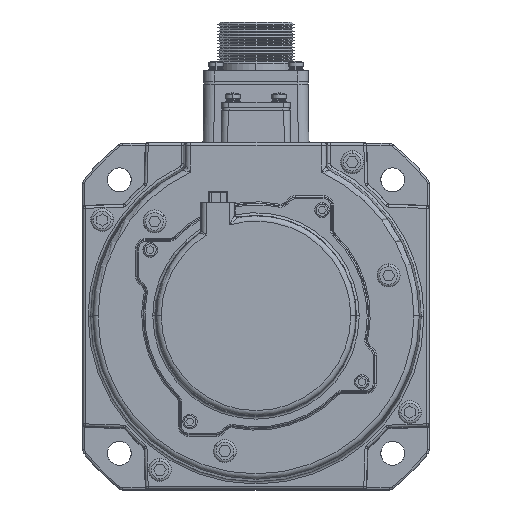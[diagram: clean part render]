
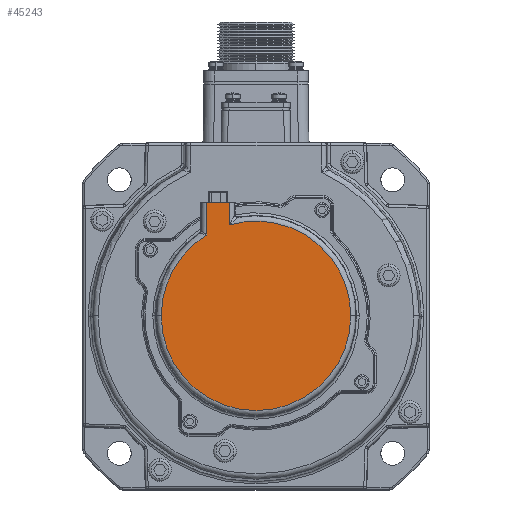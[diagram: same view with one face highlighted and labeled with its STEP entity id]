
A CAD part, top view. The second image highlights one B-rep face of the part: STEP entity #45243.
In plain terms, the highlighted planar face has unit normal (0, 0, 1).
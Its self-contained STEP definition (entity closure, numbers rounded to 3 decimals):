
#1659 = VECTOR ( 'NONE', #78107, 1000. ) ;
#2811 = VERTEX_POINT ( 'NONE', #134739 ) ;
#3097 = ORIENTED_EDGE ( 'NONE', *, *, #72445, .T. ) ;
#5297 = VECTOR ( 'NONE', #97179, 1000. ) ;
#6064 = CARTESIAN_POINT ( 'NONE',  ( -18.844, -13.773, -18.537 ) ) ;
#6460 = DIRECTION ( 'NONE',  ( 0., 0., 1. ) ) ;
#6725 = DIRECTION ( 'NONE',  ( 0., 0., 1. ) ) ;
#8556 = DIRECTION ( 'NONE',  ( 0., 0., 1. ) ) ;
#9221 = DIRECTION ( 'NONE',  ( 0., -1., 0. ) ) ;
#12564 = CIRCLE ( 'NONE', #114161, 35.528 ) ;
#12755 = ORIENTED_EDGE ( 'NONE', *, *, #87980, .F. ) ;
#22048 = LINE ( 'NONE', #72444, #130663 ) ;
#26084 = AXIS2_PLACEMENT_3D ( 'NONE', #104521, #41218, #115110 ) ;
#30648 = PLANE ( 'NONE',  #26084 ) ;
#33916 = CARTESIAN_POINT ( 'NONE',  ( -16.872, -13.773, -18.537 ) ) ;
#34429 = ORIENTED_EDGE ( 'NONE', *, *, #105026, .T. ) ;
#41218 = DIRECTION ( 'NONE',  ( 0., 0., 1. ) ) ;
#43096 = FACE_OUTER_BOUND ( 'NONE', #131137, .T. ) ;
#45243 = ADVANCED_FACE ( 'NONE', ( #43096 ), #30648, .T. ) ;
#46178 = CARTESIAN_POINT ( 'NONE',  ( -18.844, -13.773, -18.537 ) ) ;
#57749 = LINE ( 'NONE', #46178, #1659 ) ;
#60607 = EDGE_CURVE ( 'NONE', #2811, #120081, #108776, .T. ) ;
#60647 = ORIENTED_EDGE ( 'NONE', *, *, #122109, .T. ) ;
#60979 = VERTEX_POINT ( 'NONE', #118032 ) ;
#62399 = ORIENTED_EDGE ( 'NONE', *, *, #60607, .T. ) ;
#64495 = AXIS2_PLACEMENT_3D ( 'NONE', #69683, #6460, #80319 ) ;
#69683 = CARTESIAN_POINT ( 'NONE',  ( -8.872, -56.273, -18.537 ) ) ;
#69946 = CARTESIAN_POINT ( 'NONE',  ( -8.872, -56.273, -18.537 ) ) ;
#71795 = CARTESIAN_POINT ( 'NONE',  ( -8.872, -56.273, -18.537 ) ) ;
#72444 = CARTESIAN_POINT ( 'NONE',  ( -27.4, -24.873, -18.537 ) ) ;
#72445 = EDGE_CURVE ( 'NONE', #103716, #86991, #12564, .T. ) ;
#72688 = CARTESIAN_POINT ( 'NONE',  ( 26.656, -56.273, -18.537 ) ) ;
#78107 = DIRECTION ( 'NONE',  ( 0., 1., 0. ) ) ;
#79310 = CARTESIAN_POINT ( 'NONE',  ( -44.4, -56.273, -18.537 ) ) ;
#80319 = DIRECTION ( 'NONE',  ( 1., 0., 0. ) ) ;
#80586 = DIRECTION ( 'NONE',  ( 1., 0., 0. ) ) ;
#82419 = DIRECTION ( 'NONE',  ( 1., 0., 0. ) ) ;
#82538 = AXIS2_PLACEMENT_3D ( 'NONE', #69946, #6725, #80586 ) ;
#86991 = VERTEX_POINT ( 'NONE', #109828 ) ;
#87980 = EDGE_CURVE ( 'NONE', #60979, #105658, #92843, .T. ) ;
#88885 = ORIENTED_EDGE ( 'NONE', *, *, #125995, .T. ) ;
#92843 = LINE ( 'NONE', #33916, #5297 ) ;
#97179 = DIRECTION ( 'NONE',  ( 1., 0., 0. ) ) ;
#103716 = VERTEX_POINT ( 'NONE', #72688 ) ;
#103789 = CIRCLE ( 'NONE', #82538, 35.528 ) ;
#104521 = CARTESIAN_POINT ( 'NONE',  ( -8.872, -56.273, -18.537 ) ) ;
#105026 = EDGE_CURVE ( 'NONE', #86991, #105658, #57749, .T. ) ;
#105658 = VERTEX_POINT ( 'NONE', #6064 ) ;
#108776 = CIRCLE ( 'NONE', #64495, 35.528 ) ;
#109828 = CARTESIAN_POINT ( 'NONE',  ( -18.844, -22.174, -18.537 ) ) ;
#114161 = AXIS2_PLACEMENT_3D ( 'NONE', #71795, #8556, #82419 ) ;
#115110 = DIRECTION ( 'NONE',  ( 1., 0., 0. ) ) ;
#118032 = CARTESIAN_POINT ( 'NONE',  ( -27.4, -13.773, -18.537 ) ) ;
#120081 = VERTEX_POINT ( 'NONE', #79310 ) ;
#122109 = EDGE_CURVE ( 'NONE', #60979, #2811, #22048, .T. ) ;
#125995 = EDGE_CURVE ( 'NONE', #120081, #103716, #103789, .T. ) ;
#130663 = VECTOR ( 'NONE', #9221, 1000. ) ;
#131137 = EDGE_LOOP ( 'NONE', ( #12755, #60647, #62399, #88885, #3097, #34429 ) ) ;
#134739 = CARTESIAN_POINT ( 'NONE',  ( -27.4, -25.959, -18.537 ) ) ;
